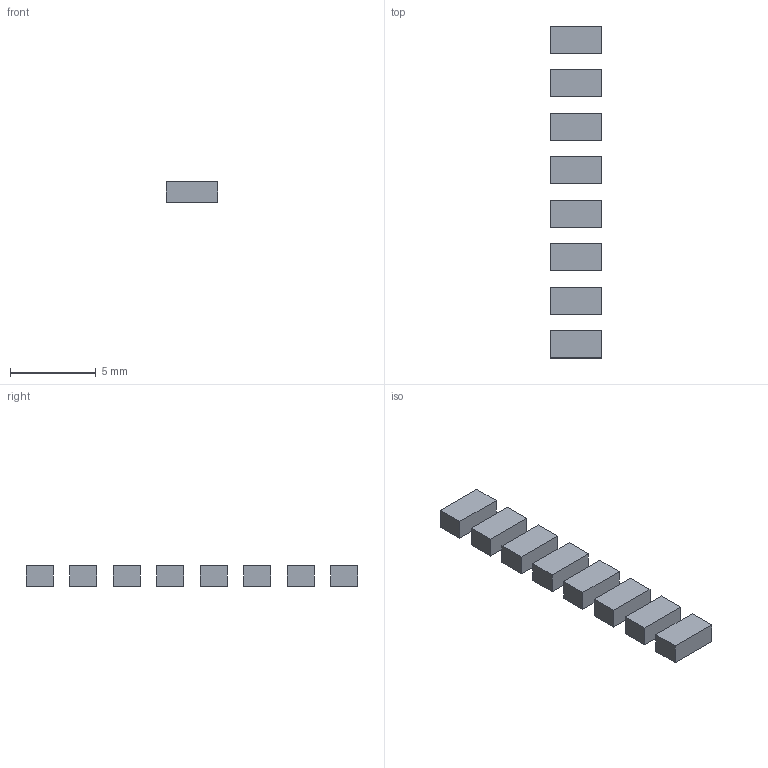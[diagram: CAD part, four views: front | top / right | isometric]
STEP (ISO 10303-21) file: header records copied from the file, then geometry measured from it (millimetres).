
FILE_DESCRIPTION (( 'STEP AP203' ), '1' );
FILE_NAME ('REF_top_resistor_envelopes.step', '2026-09-30T11:37:27', ( '' ), ( '' ), 'SwSTEP 2.0', 'SolidWorks 2025', '' );
FILE_SCHEMA (( 'CONFIG_CONTROL_DESIGN' ));
Length unit declared in the file: millimetre
Products named in the file (1): REF_top_resistor_envelopes
Bounding box: 3 x 19.38 x 1.2 mm (x, y, z)
Volume: 46.1 mm3; surface area: 165.1 mm2
Topology: 8 solids, 8 shells, 48 faces, 96 edges, 64 vertices
Faces by surface type: plane 48
Entity records: 1283 total; most frequent: CARTESIAN_POINT 209, DIRECTION 194, ORIENTED_EDGE 192, VECTOR 96, EDGE_CURVE 96, LINE 96, VERTEX_POINT 64, AXIS2_PLACEMENT_3D 49
